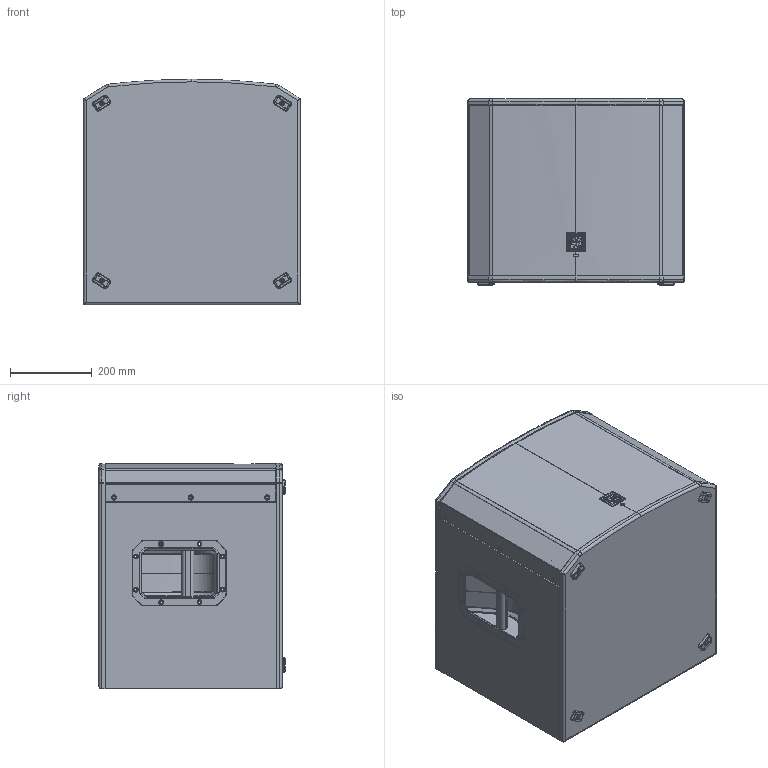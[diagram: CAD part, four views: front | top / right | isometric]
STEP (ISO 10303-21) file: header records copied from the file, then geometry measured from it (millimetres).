
FILE_DESCRIPTION (( 'STEP AP214' ), '1' );
FILE_NAME ('F01U303366 simplified.STEP', '2015-04-17T21:32:37', ( '' ), ( '' ), 'SwSTEP 2.0', 'SolidWorks 2014', '' );
FILE_SCHEMA (( 'AUTOMOTIVE_DESIGN' ));
Length unit declared in the file: millimetre
Products named in the file (14): F01U306215; F01U167117_96415A125; F01U273562; F01U306441_FORMED WITH LOGO; F01U270364; F01U308206; F01U302493; F01U304170; F01U304170 TOP PANEL; F01U304170 REAR PANEL; F01U304170 RIGHT PANEL; F01U304170 LEFT PANEL; F01U304170 BOTTOM PANEL; F01U303366 simplified
Assembly tree (18 placements, depth 3):
  F01U303366 simplified
    F01U304170
      F01U304170 BOTTOM PANEL
      F01U304170 LEFT PANEL
      F01U304170 RIGHT PANEL
      F01U304170 REAR PANEL
      F01U304170 TOP PANEL
    F01U302493  x2
    F01U308206
    F01U270364  x4
    F01U306215
      F01U306441_FORMED WITH LOGO
      F01U273562
      F01U167117_96415A125  x2
Bounding box: 530.23 x 455 x 551.32 mm (x, y, z)
Volume: 17567637.1 mm3; surface area: 3344507.6 mm2
Topology: 20 solids, 20 shells, 2329 faces, 5912 edges, 3735 vertices
Faces by surface type: plane 896, bspline 717, cylinder 540, cone 176
Entity records: 78160 total; most frequent: CARTESIAN_POINT 31526, ORIENTED_EDGE 6916, DIRECTION 5786, EDGE_CURVE 3458, VERTEX_POINT 2187, AXIS2_PLACEMENT_3D 2079, VECTOR 1628, LINE 1628
